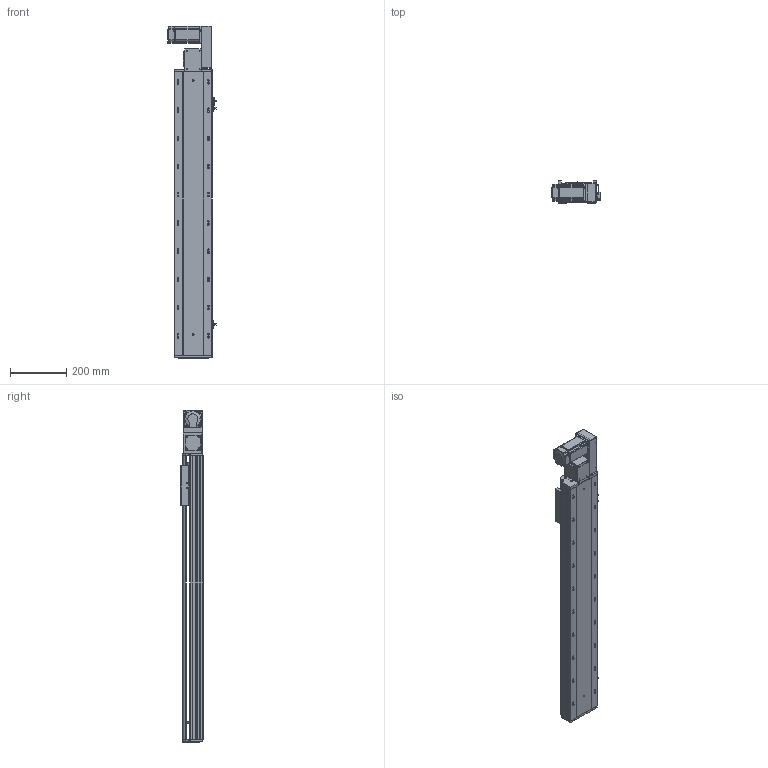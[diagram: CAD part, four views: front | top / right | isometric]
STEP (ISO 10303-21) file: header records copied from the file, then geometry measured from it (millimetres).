
FILE_DESCRIPTION (( 'STEP AP203' ), '1' );
FILE_NAME ('RY140-T-300-RK.SLDASM_750.step', '2021-03-01T06:45:27', ( '盈信电脑' ), ( '东莞市道滘镇水果街19号' ), 'SwSTEP 2.0', 'SolidWorks 2012', '' );
FILE_SCHEMA (( 'CONFIG_CONTROL_DESIGN' ));
Length unit declared in the file: millimetre
Products named in the file (17): RY140-T萇儂假蚾啣; RY140-T萇儂欶; RY120-T蹟翐M4; RY140-T翋肮謫裔啣; RY140-T-300-RK.SLDASM_750; 15; RY120-T主同步轮轴承压盖; RY140-T翋肮祭謫盓傅釱; 滅袉蝶18-10; RY120-T肮祭湍揤踡輸1; 覜茼ん672; RY140綴裔啣; RY120-T肮祭湍揤踡輸2; RY120外置感应片(140共用）; RY140肮祭謫臏賑輸; RY140-T-300-DR倰第菁釱_750; RY140-T-300-DR倰第奻裔啣_750
Assembly tree (22 placements, depth 2):
  RY140-T-300-RK.SLDASM_750
    RY140-T-300-DR倰第菁釱_750
    RY140肮祭謫臏賑輸
    RY140-T-300-DR倰第奻裔啣_750
    RY140綴裔啣
    覜茼ん672  x3
    RY120外置感应片(140共用）
    RY120-T肮祭湍揤踡輸2
    RY120-T肮祭湍揤踡輸1
    RY140-T翋肮祭謫盓傅釱
    滅袉蝶18-10  x2
    RY140-T翋肮謫裔啣
    RY140-T萇儂欶
    RY140-T萇儂假蚾啣
    RY120-T蹟翐M4  x4
    15
    RY120-T主同步轮轴承压盖
Bounding box: 170.7 x 78 x 1176.5 mm (x, y, z)
Volume: 3393220.5 mm3; surface area: 1281044.7 mm2
Topology: 22 solids, 22 shells, 2679 faces, 7377 edges, 4748 vertices
Faces by surface type: plane 1381, cylinder 996, cone 202, bspline 100
Entity records: 85266 total; most frequent: CARTESIAN_POINT 20999, ORIENTED_EDGE 13274, DIRECTION 12529, EDGE_CURVE 6637, VERTEX_POINT 4347, LINE 4221, VECTOR 4221, AXIS2_PLACEMENT_3D 4154
